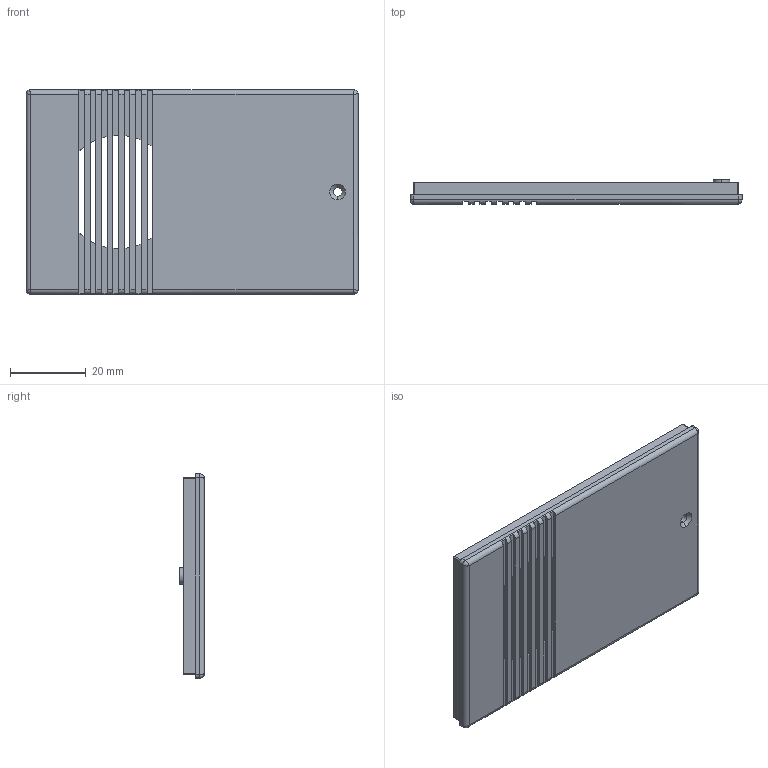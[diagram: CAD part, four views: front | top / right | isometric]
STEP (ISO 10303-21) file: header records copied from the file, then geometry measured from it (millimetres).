
FILE_DESCRIPTION (( 'STEP AP214' ), '1' );
FILE_NAME ('Tapa PP25.STEP', '2019-10-23T12:52:13', ( 'aaa' ), ( '' ), 'SwSTEP 2.0', 'SolidWorks 2014', '' );
FILE_SCHEMA (( 'AUTOMOTIVE_DESIGN' ));
Length unit declared in the file: millimetre
Products named in the file (1): Tapa PP25
Bounding box: 87.8 x 6.5 x 54 mm (x, y, z)
Volume: 10153.4 mm3; surface area: 12441.2 mm2
Topology: 1 solids, 1 shells, 89 faces, 282 edges, 180 vertices
Faces by surface type: plane 65, cylinder 18, bspline 4, cone 2
Entity records: 3302 total; most frequent: CARTESIAN_POINT 736, ORIENTED_EDGE 556, DIRECTION 526, EDGE_CURVE 278, VECTOR 186, LINE 186, VERTEX_POINT 180, AXIS2_PLACEMENT_3D 170
